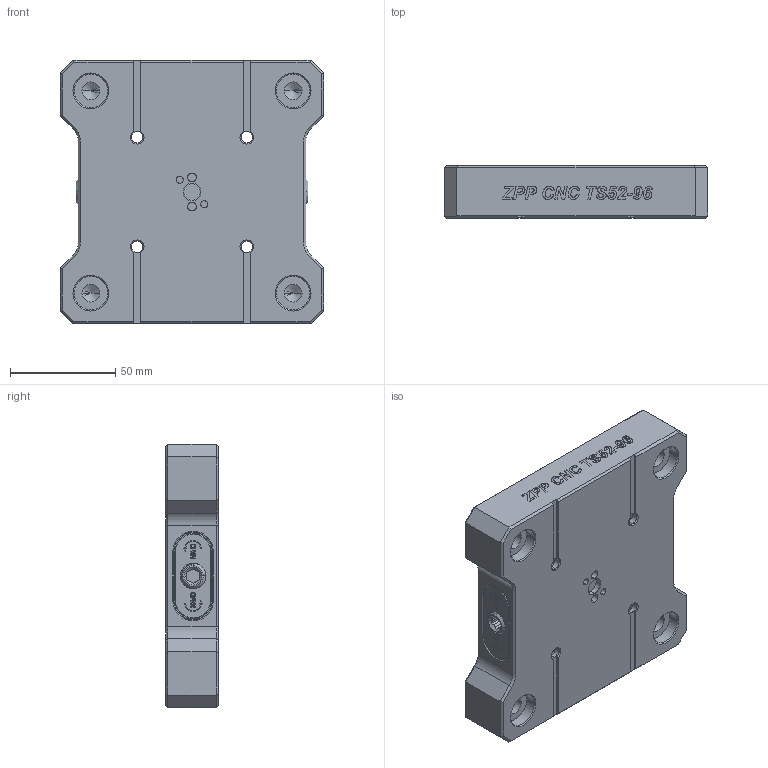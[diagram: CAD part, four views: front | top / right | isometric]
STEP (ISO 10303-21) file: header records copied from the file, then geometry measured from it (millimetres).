
FILE_DESCRIPTION((''),'2;1');
FILE_NAME('TS52-TS96_SS','2023-11-22T15:12:17',('XF'),(''),'CREO PARAMETRIC BY PTC INC, 2022073','CREO PARAMETRIC BY PTC INC, 2022073','');
FILE_SCHEMA(('CONFIG_CONTROL_DESIGN'));
Products named in the file (1): TS52-TS96_SS
Bounding box: 125 x 25 x 125 mm (x, y, z)
Volume: 333755.2 mm3; surface area: 50103.9 mm2
Topology: 1 solids, 1 shells, 1833 faces, 4966 edges, 3276 vertices
Faces by surface type: plane 1097, extrusion 518, cylinder 140, cone 60, torus 12, bspline 6
Entity records: 59204 total; most frequent: CARTESIAN_POINT 14809, ORIENTED_EDGE 9916, DIRECTION 7382, EDGE_CURVE 4958, VECTOR 4008, LINE 3490, VERTEX_POINT 3276, EDGE_LOOP 1990
